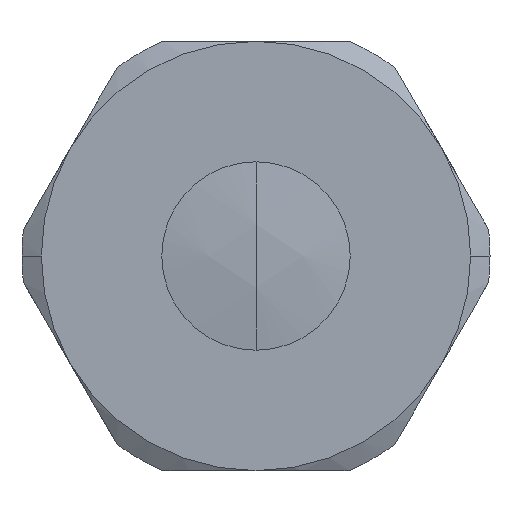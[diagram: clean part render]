
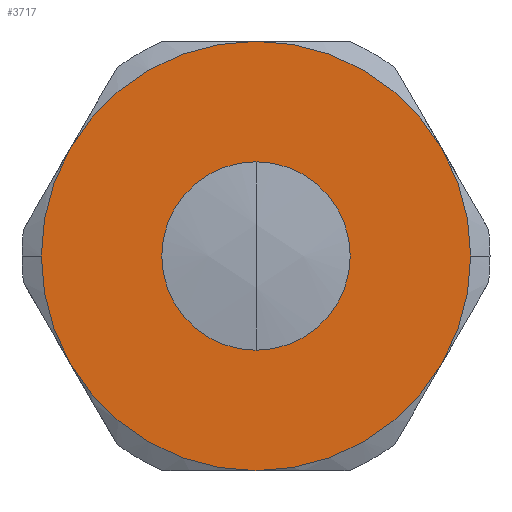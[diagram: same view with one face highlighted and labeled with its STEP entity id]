
A CAD part, left-side view. The second image highlights one B-rep face of the part: STEP entity #3717.
In plain terms, the highlighted planar face has unit normal (-1, 0, 0).
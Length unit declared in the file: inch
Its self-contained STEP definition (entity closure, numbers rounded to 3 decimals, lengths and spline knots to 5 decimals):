
#949=CARTESIAN_POINT('',(0.,0.5,2.));
#950=VERTEX_POINT('',#949);
#966=CARTESIAN_POINT('',(0.,0.43301,1.75));
#967=VERTEX_POINT('',#966);
#981=CARTESIAN_POINT('',(0.,0.,2.0));
#982=DIRECTION('',(-1.0,0.0,0.0));
#983=DIRECTION('',(0.0,1.0,0.0));
#984=AXIS2_PLACEMENT_3D('',#981,#982,#983);
#985=CIRCLE('',#984,0.5);
#986=EDGE_CURVE('',#950,#967,#985,.T.);
#996=CARTESIAN_POINT('',(0.,-0.5,2.0));
#997=VERTEX_POINT('',#996);
#1004=CARTESIAN_POINT('',(0.,-0.43301,1.75));
#1005=VERTEX_POINT('',#1004);
#1006=CARTESIAN_POINT('',(0.,0.,2.0));
#1007=DIRECTION('',(-1.0,0.0,0.0));
#1008=DIRECTION('',(0.0,1.0,0.0));
#1009=AXIS2_PLACEMENT_3D('',#1006,#1007,#1008);
#1010=CIRCLE('',#1009,0.5);
#1011=EDGE_CURVE('',#1005,#997,#1010,.T.);
#2643=CARTESIAN_POINT('',(0.,0.2195,2.0));
#2644=VERTEX_POINT('',#2643);
#2651=CARTESIAN_POINT('',(0.,-0.2195,2.0));
#2652=VERTEX_POINT('',#2651);
#2653=CARTESIAN_POINT('',(0.,0.,2.0));
#2654=DIRECTION('',(1.0,0.0,0.0));
#2655=DIRECTION('',(0.0,1.0,0.0));
#2656=AXIS2_PLACEMENT_3D('',#2653,#2654,#2655);
#2657=CIRCLE('',#2656,0.2195);
#2658=EDGE_CURVE('',#2652,#2644,#2657,.T.);
#2694=CARTESIAN_POINT('',(0.,0.,2.0));
#2695=DIRECTION('',(1.0,0.0,0.0));
#2696=DIRECTION('',(0.0,1.0,0.0));
#2697=AXIS2_PLACEMENT_3D('',#2694,#2695,#2696);
#2698=CIRCLE('',#2697,0.2195);
#2699=EDGE_CURVE('',#2644,#2652,#2698,.T.);
#3654=CARTESIAN_POINT('',(0.,0.,2.));
#3655=DIRECTION('',(1.0,0.0,0.0));
#3656=DIRECTION('',(0.0,0.0,-1.0));
#3657=AXIS2_PLACEMENT_3D('',#3654,#3655,#3656);
#3658=PLANE('',#3657);
#3659=CARTESIAN_POINT('',(0.,-0.43301,2.25));
#3660=VERTEX_POINT('',#3659);
#3661=CARTESIAN_POINT('',(0.,0.,2.5));
#3662=VERTEX_POINT('',#3661);
#3663=CARTESIAN_POINT('',(0.,0.,2.0));
#3664=DIRECTION('',(-1.0,0.0,0.0));
#3665=DIRECTION('',(0.0,1.0,0.0));
#3666=AXIS2_PLACEMENT_3D('',#3663,#3664,#3665);
#3667=CIRCLE('',#3666,0.5);
#3668=EDGE_CURVE('',#3660,#3662,#3667,.T.);
#3669=ORIENTED_EDGE('',*,*,#3668,.T.);
#3670=CARTESIAN_POINT('',(0.,0.43301,2.25));
#3671=VERTEX_POINT('',#3670);
#3672=CARTESIAN_POINT('',(0.,0.,2.0));
#3673=DIRECTION('',(-1.0,0.0,0.0));
#3674=DIRECTION('',(0.0,1.0,0.0));
#3675=AXIS2_PLACEMENT_3D('',#3672,#3673,#3674);
#3676=CIRCLE('',#3675,0.5);
#3677=EDGE_CURVE('',#3662,#3671,#3676,.T.);
#3678=ORIENTED_EDGE('',*,*,#3677,.T.);
#3679=CARTESIAN_POINT('',(0.,0.,2.0));
#3680=DIRECTION('',(-1.0,0.0,0.0));
#3681=DIRECTION('',(0.0,1.0,0.0));
#3682=AXIS2_PLACEMENT_3D('',#3679,#3680,#3681);
#3683=CIRCLE('',#3682,0.5);
#3684=EDGE_CURVE('',#3671,#950,#3683,.T.);
#3685=ORIENTED_EDGE('',*,*,#3684,.T.);
#3686=ORIENTED_EDGE('',*,*,#986,.T.);
#3687=CARTESIAN_POINT('',(0.,0.,1.5));
#3688=VERTEX_POINT('',#3687);
#3689=CARTESIAN_POINT('',(0.,0.,2.0));
#3690=DIRECTION('',(-1.0,0.0,0.0));
#3691=DIRECTION('',(0.0,1.0,0.0));
#3692=AXIS2_PLACEMENT_3D('',#3689,#3690,#3691);
#3693=CIRCLE('',#3692,0.5);
#3694=EDGE_CURVE('',#967,#3688,#3693,.T.);
#3695=ORIENTED_EDGE('',*,*,#3694,.T.);
#3696=CARTESIAN_POINT('',(0.,0.,2.0));
#3697=DIRECTION('',(-1.0,0.0,0.0));
#3698=DIRECTION('',(0.0,1.0,0.0));
#3699=AXIS2_PLACEMENT_3D('',#3696,#3697,#3698);
#3700=CIRCLE('',#3699,0.5);
#3701=EDGE_CURVE('',#3688,#1005,#3700,.T.);
#3702=ORIENTED_EDGE('',*,*,#3701,.T.);
#3703=ORIENTED_EDGE('',*,*,#1011,.T.);
#3704=CARTESIAN_POINT('',(0.,0.,2.0));
#3705=DIRECTION('',(-1.0,0.0,0.0));
#3706=DIRECTION('',(0.0,1.0,0.0));
#3707=AXIS2_PLACEMENT_3D('',#3704,#3705,#3706);
#3708=CIRCLE('',#3707,0.5);
#3709=EDGE_CURVE('',#997,#3660,#3708,.T.);
#3710=ORIENTED_EDGE('',*,*,#3709,.T.);
#3711=EDGE_LOOP('',(#3669,#3678,#3685,#3686,#3695,#3702,#3703,#3710));
#3712=FACE_OUTER_BOUND('',#3711,.T.);
#3713=ORIENTED_EDGE('',*,*,#2699,.T.);
#3714=ORIENTED_EDGE('',*,*,#2658,.T.);
#3715=EDGE_LOOP('',(#3713,#3714));
#3716=FACE_BOUND('',#3715,.T.);
#3717=ADVANCED_FACE('',(#3712,#3716),#3658,.F.);
